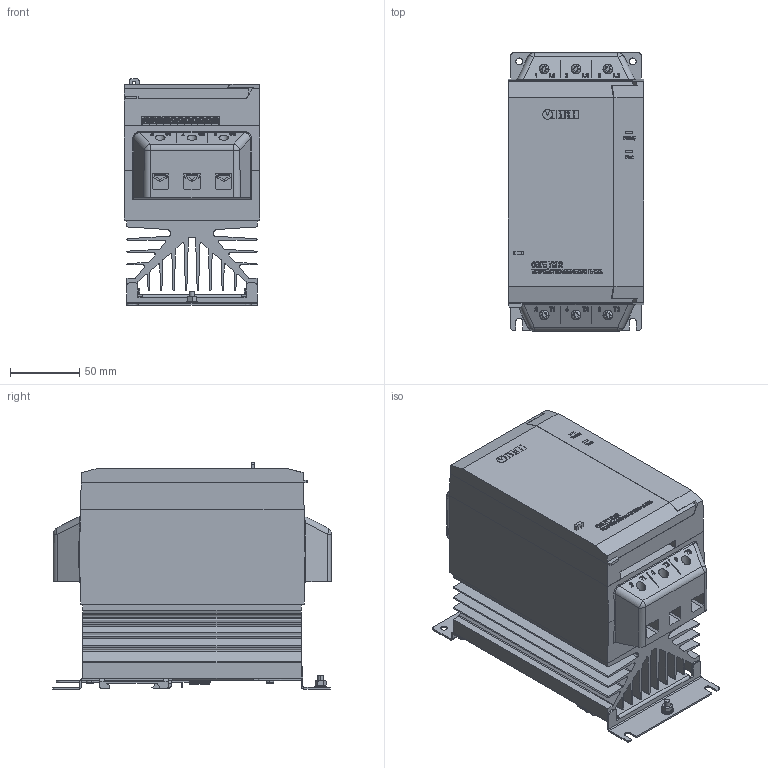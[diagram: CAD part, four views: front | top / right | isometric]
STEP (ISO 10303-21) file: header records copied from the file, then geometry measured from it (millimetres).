
FILE_DESCRIPTION (( 'STEP AP214' ), '1' );
FILE_NAME ('3D ìîäåëü ÓÏÏ2-7Ê5-Â.STEP', '2017-07-08T14:09:51', ( '' ), ( '' ), 'SwSTEP 2.0', 'SolidWorks 2013', '' );
FILE_SCHEMA (( 'AUTOMOTIVE_DESIGN' ));
Length unit declared in the file: millimetre
Products named in the file (14): Êðåïåæ ÓÏÏ2-7Ê5-Â; Ðàäèàòîð ÓÏÏ2-7Ê5-Â; ﾇ琥韲 ﾓﾏﾏ2-7ﾊ5-ﾂ; Êëåììà_14õ9,8õ5ìì; hex nut style 1 gradeab_din_Hexagon Nut ISO 4032 - M4 - D - N; Êîðïóñ ÓÏÏ2-7Ê5-Â; 冓踖樦 6pin; ﾏ跖浯 ﾓﾏﾏ2-7ﾊ5-ﾂ; socket head thin cap screw_din_DIN 7984 - M3 x 10 --- 8.5N; 3D ìîäåëü ÓÏÏ2-7Ê5-Â; Ïàíåëü âíóòðåííÿÿ; plain washer 6902 type abc_din_DIN 6902-A3.6; Êðûøêà ÓÏÏ2-7Ê5-Â; curved spring lock washer_din_Spring washer DIN 128 - A4
Assembly tree (26 placements, depth 2):
  3D ìîäåëü ÓÏÏ2-7Ê5-Â
    Êîðïóñ ÓÏÏ2-7Ê5-Â
    Ðàäèàòîð ÓÏÏ2-7Ê5-Â
    Êðåïåæ ÓÏÏ2-7Ê5-Â
    ﾇ琥韲 ﾓﾏﾏ2-7ﾊ5-ﾂ
    ﾏ跖浯 ﾓﾏﾏ2-7ﾊ5-ﾂ
    Êðûøêà ÓÏÏ2-7Ê5-Â
    socket head thin cap screw_din_DIN 7984 - M3 x 10 --- 8.5N  x4
    Ïàíåëü âíóòðåííÿÿ
    plain washer 6902 type abc_din_DIN 6902-A3.6
    curved spring lock washer_din_Spring washer DIN 128 - A4
    hex nut style 1 gradeab_din_Hexagon Nut ISO 4032 - M4 - D - N
    Êëåììà_14õ9,8õ5ìì  x11
    冓踖樦 6pin
Bounding box: 98 x 201.57 x 163.5 mm (x, y, z)
Volume: 1929080.8 mm3; surface area: 400067.1 mm2
Topology: 75 solids, 75 shells, 5437 faces, 14633 edges, 9657 vertices
Faces by surface type: plane 2784, bspline 2080, cylinder 501, torus 36, cone 32, sphere 4
Entity records: 223669 total; most frequent: CARTESIAN_POINT 73578, ORIENTED_EDGE 26546, DIRECTION 15259, EDGE_CURVE 13273, VERTEX_POINT 8778, LINE 8199, VECTOR 8199, EDGE_LOOP 5181
